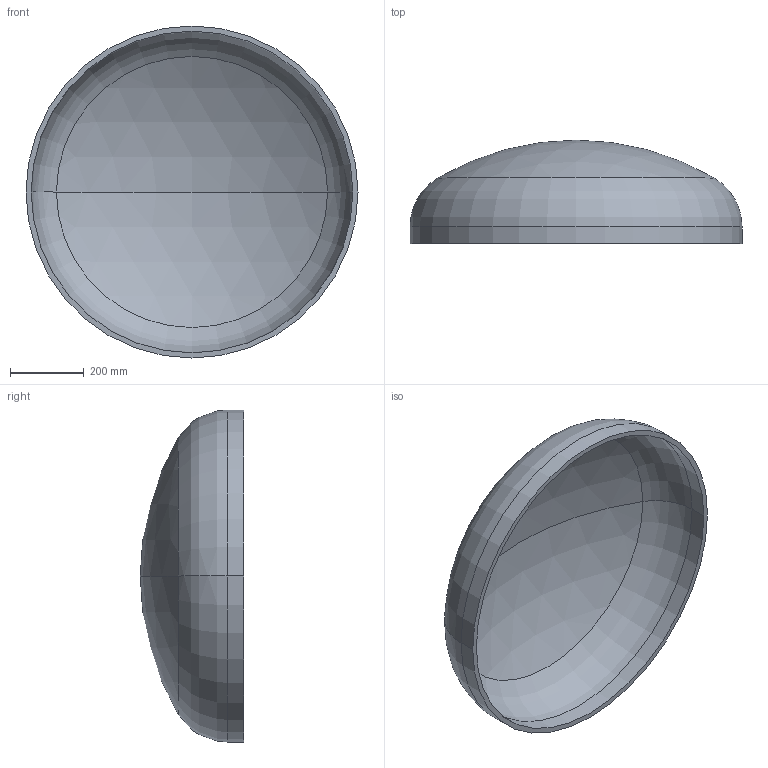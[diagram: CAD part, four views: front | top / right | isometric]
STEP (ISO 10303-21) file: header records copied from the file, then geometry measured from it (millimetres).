
FILE_DESCRIPTION (( 'STEP AP203' ), '1' );
FILE_NAME ('DIN 28013 Korbbogenform_-_Boden DIN 28013 - 900 x 45 - I - s=14.step', '2016-07-01T08:26:27', ( '' ), ( '' ), 'SwSTEP 2.0', 'SolidWorks 2013', '' );
FILE_SCHEMA (( 'CONFIG_CONTROL_DESIGN' ));
Length unit declared in the file: millimetre
Products named in the file (1): DIN 28013 Korbbogenform_-_Boden DIN 28013 - 900 x 45 - I - s=14
Bounding box: 900 x 280.22 x 900 mm (x, y, z)
Volume: 13862202.1 mm3; surface area: 2019692.7 mm2
Topology: 1 solids, 1 shells, 13 faces, 24 edges, 14 vertices
Faces by surface type: torus 4, cylinder 4, sphere 4, plane 1
Entity records: 407 total; most frequent: DIRECTION 72, CARTESIAN_POINT 52, ORIENTED_EDGE 48, AXIS2_PLACEMENT_3D 34, EDGE_CURVE 24, CIRCLE 20, EDGE_LOOP 14, VERTEX_POINT 14
